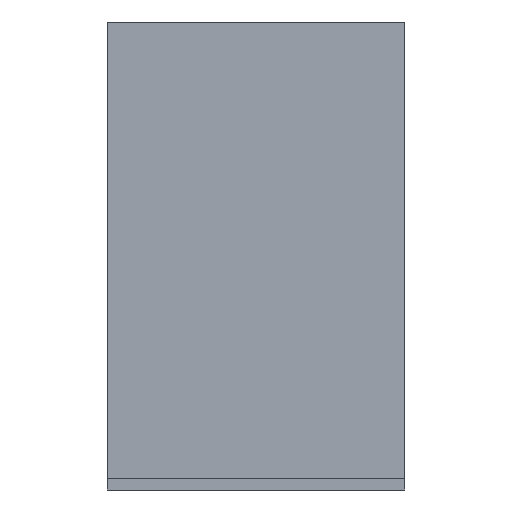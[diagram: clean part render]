
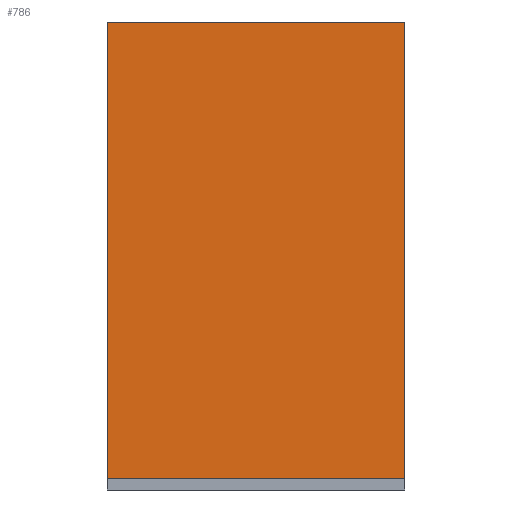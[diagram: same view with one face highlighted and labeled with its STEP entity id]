
A CAD part, left-side view. The second image highlights one B-rep face of the part: STEP entity #786.
In plain terms, the highlighted planar face has unit normal (-1, 0, 0).
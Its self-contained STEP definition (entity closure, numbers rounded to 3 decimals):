
#23 = DIRECTION ( 'NONE',  ( 0., -1., 0. ) ) ;
#46 = EDGE_CURVE ( 'NONE', #741, #288, #363, .T. ) ;
#239 = LINE ( 'NONE', #584, #437 ) ;
#281 = EDGE_CURVE ( 'NONE', #1277, #288, #239, .T. ) ;
#288 = VERTEX_POINT ( 'NONE', #461 ) ;
#306 = ORIENTED_EDGE ( 'NONE', *, *, #281, .T. ) ;
#317 = DIRECTION ( 'NONE',  ( -1., 0., 0. ) ) ;
#332 = EDGE_CURVE ( 'NONE', #1537, #1277, #479, .T. ) ;
#363 = LINE ( 'NONE', #1451, #1402 ) ;
#396 = CARTESIAN_POINT ( 'NONE',  ( -75., 12.7, -0.3 ) ) ;
#437 = VECTOR ( 'NONE', #564, 1000. ) ;
#461 = CARTESIAN_POINT ( 'NONE',  ( -75., -12.7, 38.7 ) ) ;
#479 = LINE ( 'NONE', #626, #1128 ) ;
#497 = DIRECTION ( 'NONE',  ( 0., -1., 0. ) ) ;
#564 = DIRECTION ( 'NONE',  ( 0., 0., 1. ) ) ;
#568 = FACE_OUTER_BOUND ( 'NONE', #1385, .T. ) ;
#572 = PLANE ( 'NONE',  #708 ) ;
#584 = CARTESIAN_POINT ( 'NONE',  ( -75., -12.7, -0.3 ) ) ;
#626 = CARTESIAN_POINT ( 'NONE',  ( -75., -12.7, -0.3 ) ) ;
#679 = ORIENTED_EDGE ( 'NONE', *, *, #46, .F. ) ;
#693 = DIRECTION ( 'NONE',  ( 0., 0., 1. ) ) ;
#708 = AXIS2_PLACEMENT_3D ( 'NONE', #1168, #317, #693 ) ;
#741 = VERTEX_POINT ( 'NONE', #1158 ) ;
#786 = ADVANCED_FACE ( 'NONE', ( #568 ), #572, .T. ) ;
#848 = EDGE_CURVE ( 'NONE', #1537, #741, #1391, .T. ) ;
#1059 = CARTESIAN_POINT ( 'NONE',  ( -75., 12.7, -0.3 ) ) ;
#1071 = CARTESIAN_POINT ( 'NONE',  ( -75., -12.7, -0.3 ) ) ;
#1128 = VECTOR ( 'NONE', #497, 1000. ) ;
#1158 = CARTESIAN_POINT ( 'NONE',  ( -75., 12.7, 38.7 ) ) ;
#1168 = CARTESIAN_POINT ( 'NONE',  ( -75., -12.7, -0.3 ) ) ;
#1233 = ORIENTED_EDGE ( 'NONE', *, *, #332, .T. ) ;
#1277 = VERTEX_POINT ( 'NONE', #1071 ) ;
#1385 = EDGE_LOOP ( 'NONE', ( #306, #679, #1390, #1233 ) ) ;
#1390 = ORIENTED_EDGE ( 'NONE', *, *, #848, .F. ) ;
#1391 = LINE ( 'NONE', #1059, #1425 ) ;
#1395 = DIRECTION ( 'NONE',  ( 0., 0., 1. ) ) ;
#1402 = VECTOR ( 'NONE', #23, 1000. ) ;
#1425 = VECTOR ( 'NONE', #1395, 1000. ) ;
#1451 = CARTESIAN_POINT ( 'NONE',  ( -75., 0., 38.7 ) ) ;
#1537 = VERTEX_POINT ( 'NONE', #396 ) ;
